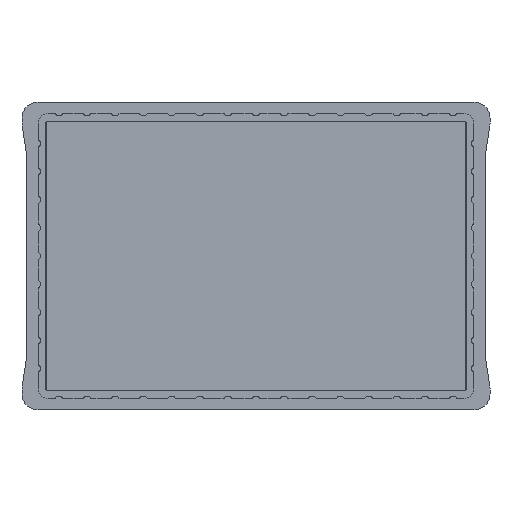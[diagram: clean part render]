
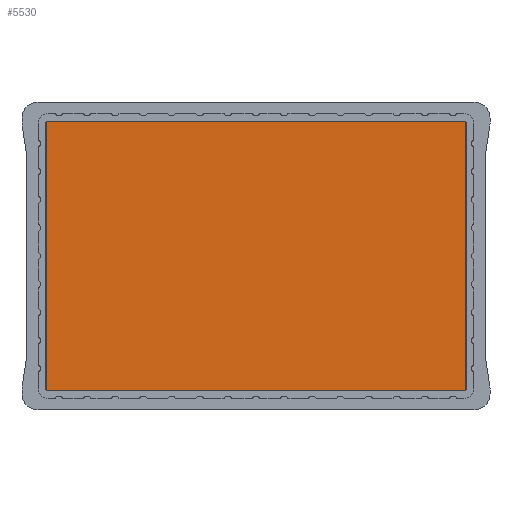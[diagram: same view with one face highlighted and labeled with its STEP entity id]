
A CAD part, front view. The second image highlights one B-rep face of the part: STEP entity #5530.
In plain terms, the highlighted planar face has unit normal (0, -1, 0).
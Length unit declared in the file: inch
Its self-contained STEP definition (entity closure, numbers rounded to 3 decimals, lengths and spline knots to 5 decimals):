
#127 = AXIS2_PLACEMENT_3D ( 'NONE', #6601, #6592, #6591 ) ;
#771 = DIRECTION ( 'NONE',  ( 0., 0., 1. ) ) ;
#773 = CARTESIAN_POINT ( 'NONE',  ( 1.385, 0., 0.883 ) ) ;
#779 = DIRECTION ( 'NONE',  ( 0., -1., 0. ) ) ;
#850 = DIRECTION ( 'NONE',  ( 0., 0., 1. ) ) ;
#851 = DIRECTION ( 'NONE',  ( 0., -1., 0. ) ) ;
#853 = CARTESIAN_POINT ( 'NONE',  ( -1.385, 0., -0.883 ) ) ;
#859 = DIRECTION ( 'NONE',  ( 1., 0., 0. ) ) ;
#865 = CARTESIAN_POINT ( 'NONE',  ( 1.65204, 0., -0.8961 ) ) ;
#866 = DIRECTION ( 'NONE',  ( -1., 0., 0. ) ) ;
#880 = CARTESIAN_POINT ( 'NONE',  ( 1.65204, 0., 0.8961 ) ) ;
#1315 = CARTESIAN_POINT ( 'NONE',  ( -1.3981, 0., -0.883 ) ) ;
#1316 = CARTESIAN_POINT ( 'NONE',  ( 1.385, 0., -0.8961 ) ) ;
#1317 = CARTESIAN_POINT ( 'NONE',  ( -1.385, 0., -0.8961 ) ) ;
#1318 = CARTESIAN_POINT ( 'NONE',  ( 1.3981, 0., -0.883 ) ) ;
#1319 = CARTESIAN_POINT ( 'NONE',  ( -1.3981, 0., 0.883 ) ) ;
#1320 = CARTESIAN_POINT ( 'NONE',  ( -1.385, 0., 0.8961 ) ) ;
#1321 = CARTESIAN_POINT ( 'NONE',  ( 1.385, 0., 0.8961 ) ) ;
#1322 = CARTESIAN_POINT ( 'NONE',  ( 1.3981, 0., 0.883 ) ) ;
#1416 = DIRECTION ( 'NONE',  ( 0., 0., 1. ) ) ;
#1417 = DIRECTION ( 'NONE',  ( 0., -1., 0. ) ) ;
#1421 = CARTESIAN_POINT ( 'NONE',  ( -1.385, 0., 0.883 ) ) ;
#1447 = DIRECTION ( 'NONE',  ( 0., 0., 1. ) ) ;
#1448 = DIRECTION ( 'NONE',  ( 0., -1., 0. ) ) ;
#1449 = CARTESIAN_POINT ( 'NONE',  ( 1.385, 0., -0.883 ) ) ;
#1484 = EDGE_CURVE ( 'NONE', #2520, #2524, #3528, .T. ) ;
#1534 = EDGE_CURVE ( 'NONE', #2521, #2516, #3005, .T. ) ;
#1580 = AXIS2_PLACEMENT_3D ( 'NONE', #1421, #1417, #1416 ) ;
#1581 = AXIS2_PLACEMENT_3D ( 'NONE', #1449, #1448, #1447 ) ;
#1608 = AXIS2_PLACEMENT_3D ( 'NONE', #853, #851, #850 ) ;
#1617 = AXIS2_PLACEMENT_3D ( 'NONE', #773, #779, #771 ) ;
#1887 = EDGE_CURVE ( 'NONE', #2523, #2521, #4297, .T. ) ;
#1897 = EDGE_CURVE ( 'NONE', #2519, #2520, #4387, .T. ) ;
#2140 = DIRECTION ( 'NONE',  ( 0., 0., 1. ) ) ;
#2144 = CARTESIAN_POINT ( 'NONE',  ( 1.3981, 0., -0.6648 ) ) ;
#2456 = DIRECTION ( 'NONE',  ( 0., 0., -1. ) ) ;
#2457 = CARTESIAN_POINT ( 'NONE',  ( -1.3981, 0., -0.6648 ) ) ;
#2516 = VERTEX_POINT ( 'NONE', #1322 ) ;
#2518 = VERTEX_POINT ( 'NONE', #1321 ) ;
#2519 = VERTEX_POINT ( 'NONE', #1320 ) ;
#2520 = VERTEX_POINT ( 'NONE', #1319 ) ;
#2521 = VERTEX_POINT ( 'NONE', #1318 ) ;
#2522 = VERTEX_POINT ( 'NONE', #1317 ) ;
#2523 = VERTEX_POINT ( 'NONE', #1316 ) ;
#2524 = VERTEX_POINT ( 'NONE', #1315 ) ;
#2890 = EDGE_CURVE ( 'NONE', #2518, #2519, #4281, .T. ) ;
#2893 = EDGE_CURVE ( 'NONE', #2522, #2523, #4275, .T. ) ;
#2896 = EDGE_CURVE ( 'NONE', #2524, #2522, #4266, .T. ) ;
#3004 = VECTOR ( 'NONE', #2140, 39.37008 ) ;
#3005 = LINE ( 'NONE', #2144, #3004 ) ;
#3082 = VECTOR ( 'NONE', #2456, 39.37008 ) ;
#3502 = EDGE_CURVE ( 'NONE', #2516, #2518, #4237, .T. ) ;
#3528 = LINE ( 'NONE', #2457, #3082 ) ;
#3685 = EDGE_LOOP ( 'NONE', ( #5767, #5769, #5770, #5771, #5774, #5802, #5806, #5804 ) ) ;
#4237 = CIRCLE ( 'NONE', #1617, 0.0131 ) ;
#4266 = CIRCLE ( 'NONE', #1608, 0.0131 ) ;
#4275 = LINE ( 'NONE', #865, #4278 ) ;
#4278 = VECTOR ( 'NONE', #859, 39.37008 ) ;
#4279 = VECTOR ( 'NONE', #866, 39.37008 ) ;
#4281 = LINE ( 'NONE', #880, #4279 ) ;
#4297 = CIRCLE ( 'NONE', #1581, 0.0131 ) ;
#4387 = CIRCLE ( 'NONE', #1580, 0.0131 ) ;
#5120 = FACE_OUTER_BOUND ( 'NONE', #3685, .T. ) ;
#5530 = ADVANCED_FACE ( 'NONE', ( #5120 ), #6604, .F. ) ;
#5767 = ORIENTED_EDGE ( 'NONE', *, *, #1484, .T. ) ;
#5769 = ORIENTED_EDGE ( 'NONE', *, *, #2896, .T. ) ;
#5770 = ORIENTED_EDGE ( 'NONE', *, *, #2893, .T. ) ;
#5771 = ORIENTED_EDGE ( 'NONE', *, *, #1887, .T. ) ;
#5774 = ORIENTED_EDGE ( 'NONE', *, *, #1534, .T. ) ;
#5802 = ORIENTED_EDGE ( 'NONE', *, *, #3502, .T. ) ;
#5804 = ORIENTED_EDGE ( 'NONE', *, *, #1897, .T. ) ;
#5806 = ORIENTED_EDGE ( 'NONE', *, *, #2890, .T. ) ;
#6591 = DIRECTION ( 'NONE',  ( 0., 0., 1. ) ) ;
#6592 = DIRECTION ( 'NONE',  ( 0., 1., 0. ) ) ;
#6601 = CARTESIAN_POINT ( 'NONE',  ( 1.65204, 0., -0.6648 ) ) ;
#6604 = PLANE ( 'NONE',  #127 ) ;
